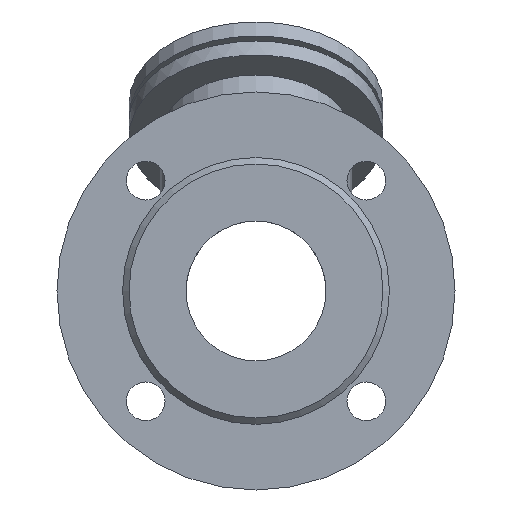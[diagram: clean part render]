
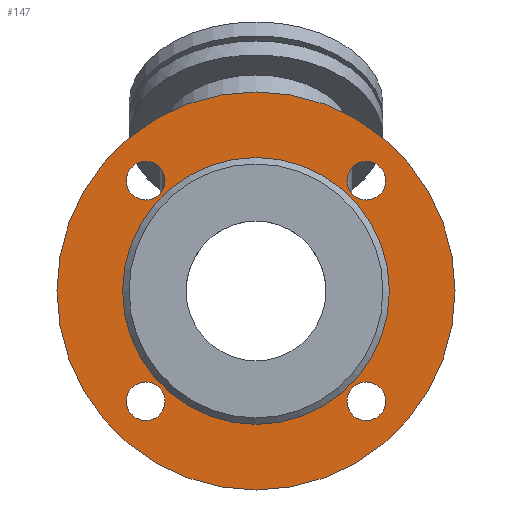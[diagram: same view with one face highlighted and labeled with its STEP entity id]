
A CAD part, front view. The second image highlights one B-rep face of the part: STEP entity #147.
In plain terms, the highlighted planar face has unit normal (0, -1, 0).
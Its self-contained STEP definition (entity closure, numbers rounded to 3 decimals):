
#147=ADVANCED_FACE('',(#482,#484,#486,#488,#490,#492),#494,.T.);
#482=FACE_BOUND('',#483,.T.);
#483=EDGE_LOOP('',(#782));
#484=FACE_BOUND('',#485,.T.);
#485=EDGE_LOOP('',(#783));
#486=FACE_BOUND('',#487,.T.);
#487=EDGE_LOOP('',(#784));
#488=FACE_BOUND('',#489,.T.);
#489=EDGE_LOOP('',(#785));
#490=FACE_BOUND('',#491,.T.);
#491=EDGE_LOOP('',(#786));
#492=FACE_BOUND('',#493,.T.);
#493=EDGE_LOOP('',(#787));
#494=PLANE('',#495);
#495=AXIS2_PLACEMENT_3D('',#496,#497,#498);
#496=CARTESIAN_POINT('',(0.,-117.,0.));
#497=DIRECTION('',(0.,-1.,0.));
#498=DIRECTION('',(0.,0.,1.));
#782=ORIENTED_EDGE('',*,*,#890,.F.);
#783=ORIENTED_EDGE('',*,*,#891,.T.);
#784=ORIENTED_EDGE('',*,*,#892,.T.);
#785=ORIENTED_EDGE('',*,*,#893,.T.);
#786=ORIENTED_EDGE('',*,*,#884,.T.);
#787=ORIENTED_EDGE('',*,*,#894,.T.);
#884=EDGE_CURVE('',#965,#965,#966,.T.);
#890=EDGE_CURVE('',#977,#977,#978,.T.);
#891=EDGE_CURVE('',#979,#979,#980,.F.);
#892=EDGE_CURVE('',#981,#981,#982,.F.);
#893=EDGE_CURVE('',#983,#983,#984,.F.);
#894=EDGE_CURVE('',#985,#985,#986,.F.);
#965=VERTEX_POINT('',#1306);
#966=CIRCLE('',#1307,62.);
#977=VERTEX_POINT('',#1336);
#978=CIRCLE('',#1337,92.5);
#979=VERTEX_POINT('',#1341);
#980=CIRCLE('',#1342,9.);
#981=VERTEX_POINT('',#1346);
#982=CIRCLE('',#1347,9.);
#983=VERTEX_POINT('',#1351);
#984=CIRCLE('',#1352,9.);
#985=VERTEX_POINT('',#1356);
#986=CIRCLE('',#1357,9.);
#1306=CARTESIAN_POINT('',(0.,-117.,62.));
#1307=AXIS2_PLACEMENT_3D('',#1308,#1309,#1310);
#1308=CARTESIAN_POINT('',(0.,-117.,0.));
#1309=DIRECTION('',(0.,1.,0.));
#1310=DIRECTION('',(0.,0.,1.));
#1336=CARTESIAN_POINT('',(0.,-117.,92.5));
#1337=AXIS2_PLACEMENT_3D('',#1338,#1339,#1340);
#1338=CARTESIAN_POINT('',(0.,-117.,0.));
#1339=DIRECTION('',(0.,1.,0.));
#1340=DIRECTION('',(0.,0.,1.));
#1341=CARTESIAN_POINT('',(51.265,-117.,42.265));
#1342=AXIS2_PLACEMENT_3D('',#1343,#1344,#1345);
#1343=CARTESIAN_POINT('',(51.265,-117.,51.265));
#1344=DIRECTION('',(0.,-1.,0.));
#1345=DIRECTION('',(0.,0.,-1.));
#1346=CARTESIAN_POINT('',(42.265,-117.,-51.265));
#1347=AXIS2_PLACEMENT_3D('',#1348,#1349,#1350);
#1348=CARTESIAN_POINT('',(51.265,-117.,-51.265));
#1349=DIRECTION('',(0.,-1.,0.));
#1350=DIRECTION('',(-1.,0.,0.));
#1351=CARTESIAN_POINT('',(-51.265,-117.,-42.265));
#1352=AXIS2_PLACEMENT_3D('',#1353,#1354,#1355);
#1353=CARTESIAN_POINT('',(-51.265,-117.,-51.265));
#1354=DIRECTION('',(0.,-1.,0.));
#1355=DIRECTION('',(0.,0.,1.));
#1356=CARTESIAN_POINT('',(-42.265,-117.,51.265));
#1357=AXIS2_PLACEMENT_3D('',#1358,#1359,#1360);
#1358=CARTESIAN_POINT('',(-51.265,-117.,51.265));
#1359=DIRECTION('',(0.,-1.,0.));
#1360=DIRECTION('',(1.,0.,0.));
